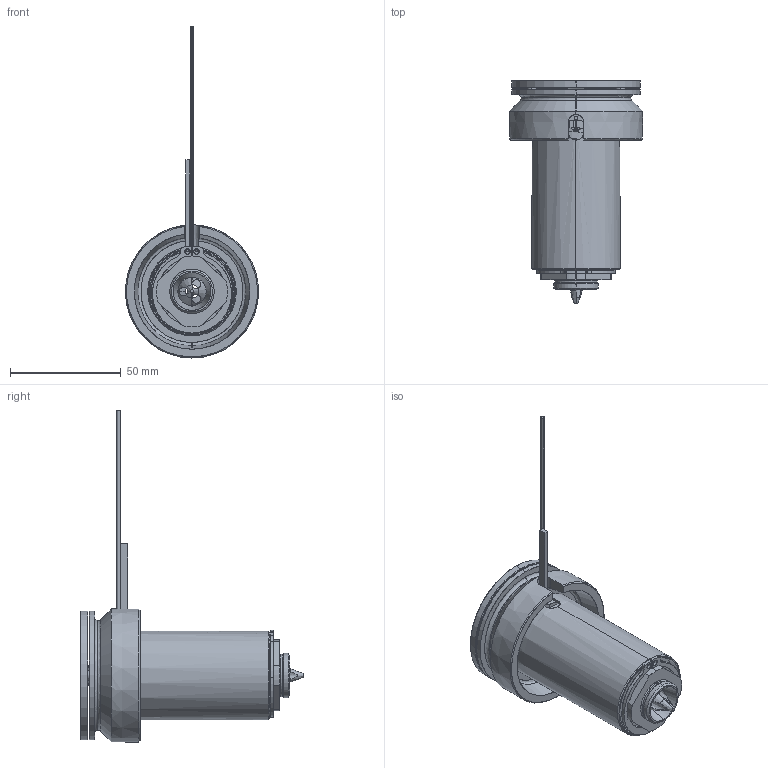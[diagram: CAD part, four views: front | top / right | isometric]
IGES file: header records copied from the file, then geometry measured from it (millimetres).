
Start section: SolidWorks IGES file using analytic representation for surfaces
Global section: file name: C:\Documents and Settings\ws-20\Desktop\TEM\UGEP6003-S-A-0 [Øf-1.6 ØC-15].IGS; native system: SolidWorks 2012; preprocessor: SolidWorks 2012; author: ws-20; date: 120427.092605; units: millimetre
Bounding box: 60 x 100.8 x 149.65 mm (x, y, z)
Surface area: 47187.9 mm2 (no closed solid volume)
Topology: 0 solids, 0 shells, 135 faces, 2732 edges, 2732 vertices
Faces by surface type: revolution 88, bspline 47
